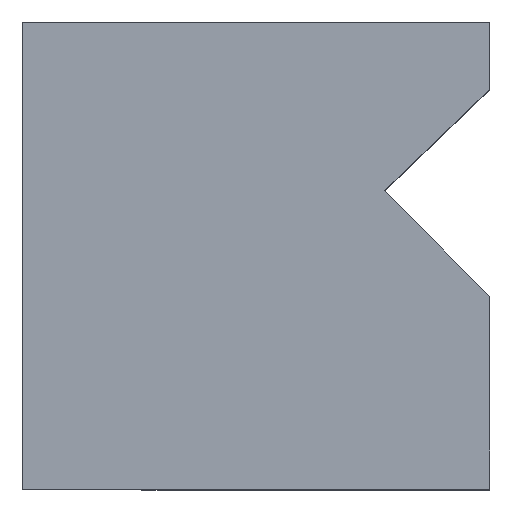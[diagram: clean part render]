
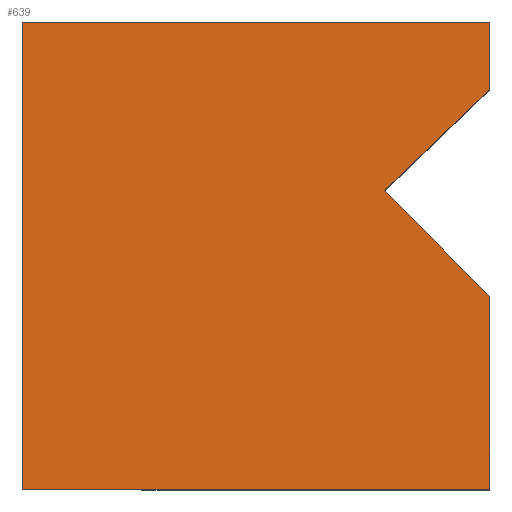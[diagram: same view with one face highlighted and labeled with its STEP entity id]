
A CAD part, top view. The second image highlights one B-rep face of the part: STEP entity #639.
In plain terms, the highlighted planar face has unit normal (0, 0, 1).
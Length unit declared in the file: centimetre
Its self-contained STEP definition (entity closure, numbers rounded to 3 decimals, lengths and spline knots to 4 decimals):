
#1 = DIRECTION ( 'NONE',  ( 0.707, -0.707, 0. ) ) ;
#34 = ORIENTED_EDGE ( 'NONE', *, *, #634, .F. ) ;
#46 = VECTOR ( 'NONE', #728, 100. ) ;
#50 = EDGE_CURVE ( 'NONE', #205, #410, #686, .T. ) ;
#61 = DIRECTION ( 'NONE',  ( 0., 0., 1. ) ) ;
#66 = CARTESIAN_POINT ( 'NONE',  ( 1000., 1000., 1000. ) ) ;
#68 = CARTESIAN_POINT ( 'NONE',  ( 1000., 0., 1000. ) ) ;
#85 = CARTESIAN_POINT ( 'NONE',  ( 0., 0., 1000. ) ) ;
#87 = VERTEX_POINT ( 'NONE', #519 ) ;
#105 = DIRECTION ( 'NONE',  ( -0.722, -0.692, 0. ) ) ;
#119 = VERTEX_POINT ( 'NONE', #710 ) ;
#137 = CARTESIAN_POINT ( 'NONE',  ( 1000., 855.7091, 1000. ) ) ;
#156 = EDGE_CURVE ( 'NONE', #119, #330, #569, .T. ) ;
#170 = CARTESIAN_POINT ( 'NONE',  ( 1000., 412.968, 1000. ) ) ;
#173 = PLANE ( 'NONE',  #395 ) ;
#177 = CARTESIAN_POINT ( 'NONE',  ( 773.9914, 638.9766, 1000. ) ) ;
#179 = VECTOR ( 'NONE', #339, 100. ) ;
#205 = VERTEX_POINT ( 'NONE', #68 ) ;
#216 = DIRECTION ( 'NONE',  ( -1., 0., 0. ) ) ;
#218 = FACE_OUTER_BOUND ( 'NONE', #756, .T. ) ;
#223 = DIRECTION ( 'NONE',  ( 1., 0., 0. ) ) ;
#245 = CARTESIAN_POINT ( 'NONE',  ( 1000., 412.968, 1000. ) ) ;
#253 = CARTESIAN_POINT ( 'NONE',  ( 0., 0., 1000. ) ) ;
#266 = ORIENTED_EDGE ( 'NONE', *, *, #734, .T. ) ;
#298 = DIRECTION ( 'NONE',  ( 0., 1., 0. ) ) ;
#304 = DIRECTION ( 'NONE',  ( 0., 1., 0. ) ) ;
#313 = EDGE_CURVE ( 'NONE', #330, #205, #414, .T. ) ;
#327 = VECTOR ( 'NONE', #1, 100. ) ;
#330 = VERTEX_POINT ( 'NONE', #85 ) ;
#334 = VECTOR ( 'NONE', #298, 100. ) ;
#337 = CARTESIAN_POINT ( 'NONE',  ( 1000., 1000., 1000. ) ) ;
#339 = DIRECTION ( 'NONE',  ( 0., -1., 0. ) ) ;
#355 = VERTEX_POINT ( 'NONE', #418 ) ;
#374 = ORIENTED_EDGE ( 'NONE', *, *, #50, .T. ) ;
#380 = VECTOR ( 'NONE', #216, 100. ) ;
#383 = CARTESIAN_POINT ( 'NONE',  ( 0., 1000., 1000. ) ) ;
#395 = AXIS2_PLACEMENT_3D ( 'NONE', #687, #61, #223 ) ;
#402 = LINE ( 'NONE', #564, #380 ) ;
#405 = LINE ( 'NONE', #177, #436 ) ;
#410 = VERTEX_POINT ( 'NONE', #245 ) ;
#414 = LINE ( 'NONE', #253, #46 ) ;
#418 = CARTESIAN_POINT ( 'NONE',  ( 1000., 1000., 1000. ) ) ;
#436 = VECTOR ( 'NONE', #105, 100. ) ;
#439 = ORIENTED_EDGE ( 'NONE', *, *, #156, .T. ) ;
#440 = VERTEX_POINT ( 'NONE', #137 ) ;
#519 = CARTESIAN_POINT ( 'NONE',  ( 773.9914, 638.9766, 1000. ) ) ;
#520 = ORIENTED_EDGE ( 'NONE', *, *, #313, .T. ) ;
#564 = CARTESIAN_POINT ( 'NONE',  ( 0., 1000., 1000. ) ) ;
#569 = LINE ( 'NONE', #383, #179 ) ;
#581 = LINE ( 'NONE', #66, #334 ) ;
#593 = EDGE_CURVE ( 'NONE', #355, #119, #402, .T. ) ;
#613 = ORIENTED_EDGE ( 'NONE', *, *, #593, .T. ) ;
#632 = LINE ( 'NONE', #170, #327 ) ;
#634 = EDGE_CURVE ( 'NONE', #87, #410, #632, .T. ) ;
#639 = ADVANCED_FACE ( 'NONE', ( #218 ), #173, .T. ) ;
#671 = EDGE_CURVE ( 'NONE', #440, #87, #405, .T. ) ;
#682 = ORIENTED_EDGE ( 'NONE', *, *, #671, .F. ) ;
#686 = LINE ( 'NONE', #337, #759 ) ;
#687 = CARTESIAN_POINT ( 'NONE',  ( 0., 0., 1000. ) ) ;
#710 = CARTESIAN_POINT ( 'NONE',  ( 0., 1000., 1000. ) ) ;
#728 = DIRECTION ( 'NONE',  ( 1., 0., 0. ) ) ;
#734 = EDGE_CURVE ( 'NONE', #440, #355, #581, .T. ) ;
#756 = EDGE_LOOP ( 'NONE', ( #34, #682, #266, #613, #439, #520, #374 ) ) ;
#759 = VECTOR ( 'NONE', #304, 100. ) ;
